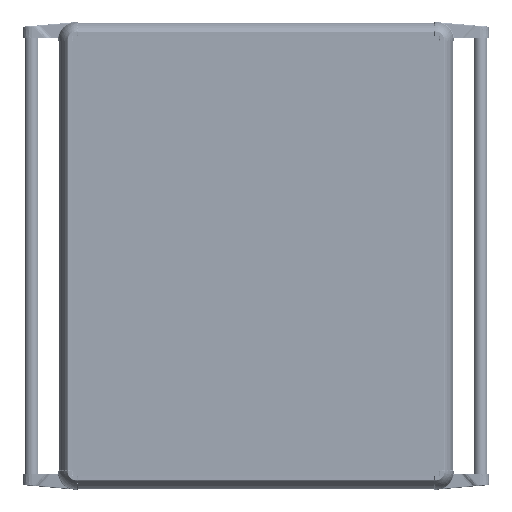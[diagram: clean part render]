
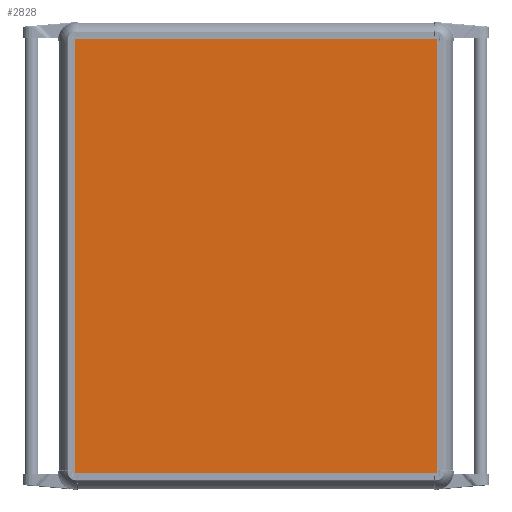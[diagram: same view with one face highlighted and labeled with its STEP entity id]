
A CAD part, top view. The second image highlights one B-rep face of the part: STEP entity #2828.
In plain terms, the highlighted planar face has unit normal (0, 0, 1).
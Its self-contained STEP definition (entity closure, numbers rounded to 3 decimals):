
#877 = EDGE_CURVE ( 'NONE', #147332, #75362, #3731, .T. ) ;
#1479 = CARTESIAN_POINT ( 'NONE',  ( -250., -300., 2. ) ) ;
#1700 = DIRECTION ( 'NONE',  ( -1., 0., 0. ) ) ;
#2828 = ADVANCED_FACE ( 'NONE', ( #63986 ), #125187, .T. ) ;
#3731 = LINE ( 'NONE', #64176, #43391 ) ;
#9183 = VERTEX_POINT ( 'NONE', #99795 ) ;
#24686 = CARTESIAN_POINT ( 'NONE',  ( -250., 300., 2. ) ) ;
#26135 = CARTESIAN_POINT ( 'NONE',  ( 0., 0., 2. ) ) ;
#27581 = ORIENTED_EDGE ( 'NONE', *, *, #30796, .T. ) ;
#30796 = EDGE_CURVE ( 'NONE', #9183, #75338, #139231, .T. ) ;
#40818 = CARTESIAN_POINT ( 'NONE',  ( -250., 300., 2. ) ) ;
#41192 = ORIENTED_EDGE ( 'NONE', *, *, #88163, .T. ) ;
#41222 = VECTOR ( 'NONE', #84292, 1000. ) ;
#43391 = VECTOR ( 'NONE', #1700, 1000. ) ;
#63986 = FACE_OUTER_BOUND ( 'NONE', #167136, .T. ) ;
#64176 = CARTESIAN_POINT ( 'NONE',  ( -250., 300., 2. ) ) ;
#72411 = DIRECTION ( 'NONE',  ( 0., 0., 1. ) ) ;
#75338 = VERTEX_POINT ( 'NONE', #162311 ) ;
#75362 = VERTEX_POINT ( 'NONE', #24686 ) ;
#82447 = ORIENTED_EDGE ( 'NONE', *, *, #877, .T. ) ;
#83313 = LINE ( 'NONE', #115413, #41222 ) ;
#84292 = DIRECTION ( 'NONE',  ( 0., 1., 0. ) ) ;
#88163 = EDGE_CURVE ( 'NONE', #75338, #147332, #83313, .T. ) ;
#93632 = VECTOR ( 'NONE', #120246, 1000. ) ;
#98646 = AXIS2_PLACEMENT_3D ( 'NONE', #26135, #72411, #133596 ) ;
#99795 = CARTESIAN_POINT ( 'NONE',  ( -250., -300., 2. ) ) ;
#115413 = CARTESIAN_POINT ( 'NONE',  ( 250., 300., 2. ) ) ;
#118123 = DIRECTION ( 'NONE',  ( 0., -1., 0. ) ) ;
#120246 = DIRECTION ( 'NONE',  ( 1., 0., 0. ) ) ;
#125187 = PLANE ( 'NONE',  #98646 ) ;
#130159 = LINE ( 'NONE', #40818, #178979 ) ;
#133596 = DIRECTION ( 'NONE',  ( 1., 0., 0. ) ) ;
#139231 = LINE ( 'NONE', #1479, #93632 ) ;
#147332 = VERTEX_POINT ( 'NONE', #169921 ) ;
#153615 = ORIENTED_EDGE ( 'NONE', *, *, #196079, .T. ) ;
#162311 = CARTESIAN_POINT ( 'NONE',  ( 250., -300., 2. ) ) ;
#167136 = EDGE_LOOP ( 'NONE', ( #41192, #82447, #153615, #27581 ) ) ;
#169921 = CARTESIAN_POINT ( 'NONE',  ( 250., 300., 2. ) ) ;
#178979 = VECTOR ( 'NONE', #118123, 1000. ) ;
#196079 = EDGE_CURVE ( 'NONE', #75362, #9183, #130159, .T. ) ;
